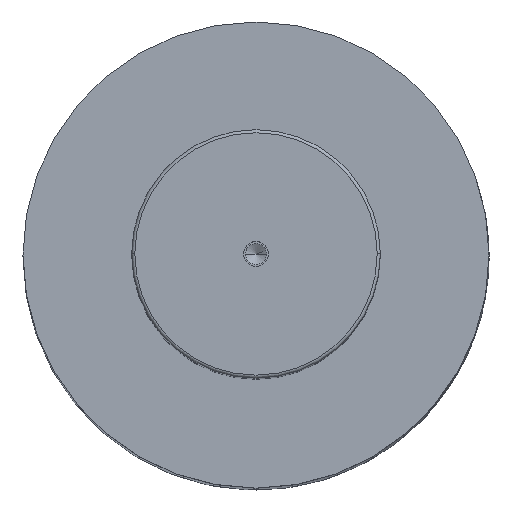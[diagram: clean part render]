
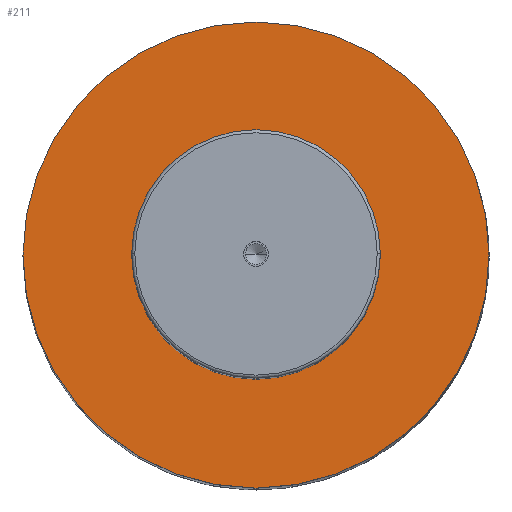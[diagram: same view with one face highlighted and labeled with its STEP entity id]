
A CAD part, top view. The second image highlights one B-rep face of the part: STEP entity #211.
In plain terms, the highlighted planar face has unit normal (0, 0, 1).
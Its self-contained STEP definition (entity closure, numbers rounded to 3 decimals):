
#109=PLANE('',#1266);
#138=FACE_BOUND('',#359,.T.);
#139=FACE_BOUND('',#360,.T.);
#211=ADVANCED_FACE('',(#138,#139),#109,.T.);
#359=EDGE_LOOP('',(#571,#572));
#360=EDGE_LOOP('',(#573,#574));
#451=CIRCLE('',#1260,40.);
#452=CIRCLE('',#1262,40.);
#453=CIRCLE('',#1264,75.);
#454=CIRCLE('',#1265,75.);
#571=ORIENTED_EDGE('',*,*,#970,.F.);
#572=ORIENTED_EDGE('',*,*,#971,.F.);
#573=ORIENTED_EDGE('',*,*,#969,.T.);
#574=ORIENTED_EDGE('',*,*,#967,.T.);
#856=VERTEX_POINT('',#1837);
#857=VERTEX_POINT('',#1839);
#858=VERTEX_POINT('',#1845);
#859=VERTEX_POINT('',#1846);
#967=EDGE_CURVE('',#857,#856,#451,.T.);
#969=EDGE_CURVE('',#856,#857,#452,.T.);
#970=EDGE_CURVE('',#858,#859,#453,.T.);
#971=EDGE_CURVE('',#859,#858,#454,.T.);
#1260=AXIS2_PLACEMENT_3D('',#1838,#1456,#1457);
#1262=AXIS2_PLACEMENT_3D('',#1842,#1461,#1462);
#1264=AXIS2_PLACEMENT_3D('',#1844,#1465,#1466);
#1265=AXIS2_PLACEMENT_3D('',#1847,#1467,#1468);
#1266=AXIS2_PLACEMENT_3D('',#1848,#1469,#1470);
#1456=DIRECTION('',(0.,0.,-1.));
#1457=DIRECTION('',(0.,1.,0.));
#1461=DIRECTION('',(0.,0.,-1.));
#1462=DIRECTION('',(0.,-1.,0.));
#1465=DIRECTION('',(0.,0.,-1.));
#1466=DIRECTION('',(0.,1.,0.));
#1467=DIRECTION('',(0.,0.,-1.));
#1468=DIRECTION('',(0.,-1.,0.));
#1469=DIRECTION('',(0.,0.,1.));
#1470=DIRECTION('',(0.,-1.,0.));
#1837=CARTESIAN_POINT('',(-40.,0.,352.));
#1838=CARTESIAN_POINT('',(0.,0.,352.));
#1839=CARTESIAN_POINT('',(40.,0.,352.));
#1842=CARTESIAN_POINT('',(0.,0.,352.));
#1844=CARTESIAN_POINT('',(0.,0.,352.));
#1845=CARTESIAN_POINT('',(75.,0.,352.));
#1846=CARTESIAN_POINT('',(-75.,0.,352.));
#1847=CARTESIAN_POINT('',(0.,0.,352.));
#1848=CARTESIAN_POINT('',(0.,0.,352.));
